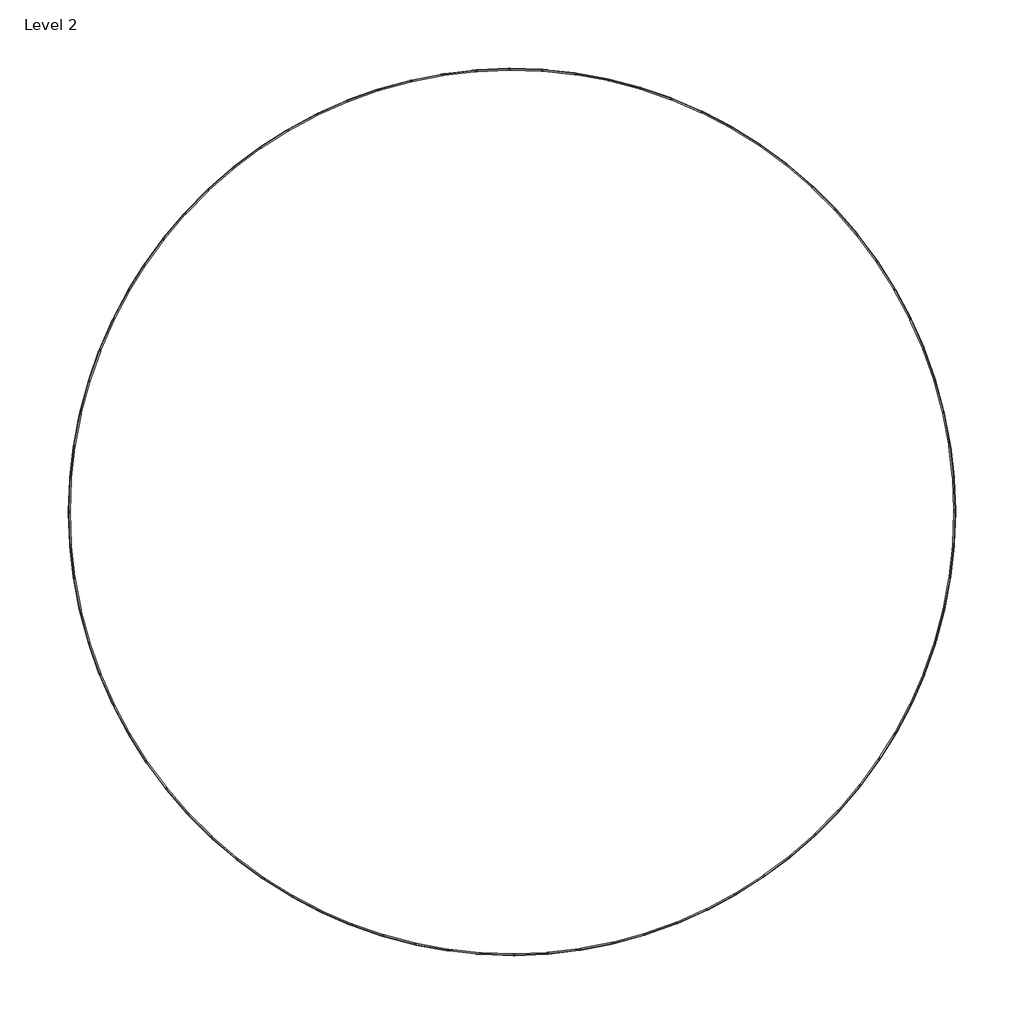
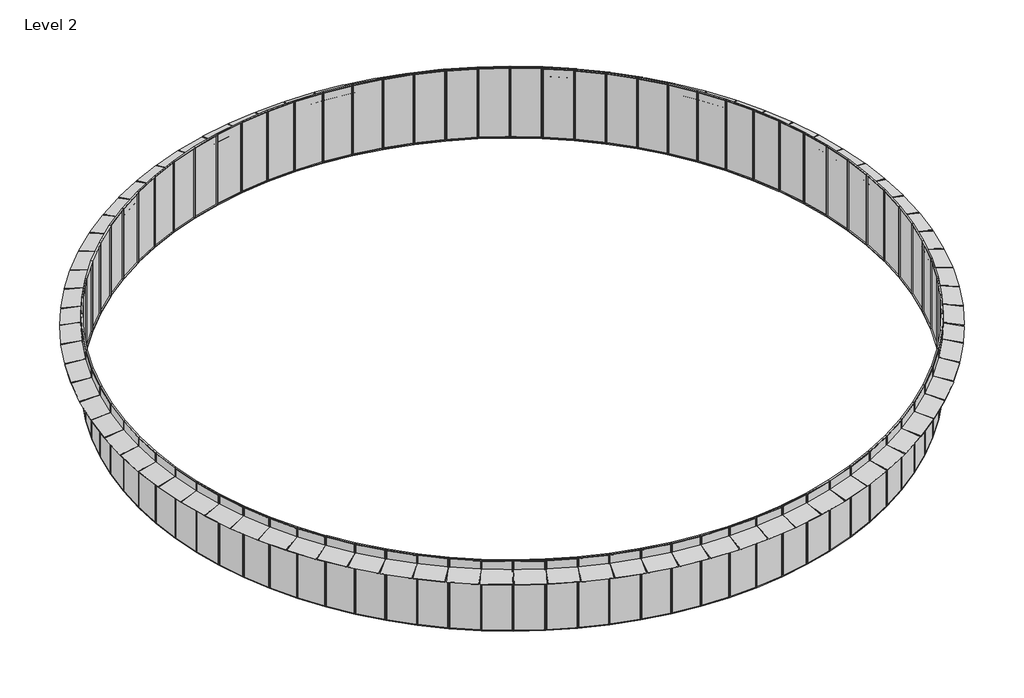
# One storey: 84 plates.
"""IFC4 building model written with IfcOpenShell, lengths in millimetres."""

from ifc_helpers import new_model, si_unit, origin, place, context, project, spatial, transform, mapped, element, save
from components import typical_panel_typical_panel_1d89b396, typical_panel_typical_panel_922f9ec0, typical_panel_typical_panel_46f82321

model = new_model("IFC4")

# Units and contexts
model_context = context("Model", 3, world=origin())
ifc_project = project(units=[si_unit("LENGTHUNIT", "METRE", prefix="MILLI")], contexts=[model_context])

# Site, building, storey
site = spatial("IfcSite", under=ifc_project)
building = spatial("IfcBuilding", under=site)
storey = spatial("IfcBuildingStorey", under=building, Name="Level 2", Elevation=4000.0)

# Plates
placement = place(None, origin())
typical_panel_typical_panel_shape = typical_panel_typical_panel_1d89b396(model_context)
element("IfcPlate", 1, ObjectType="Typical Panel : Typical Panel", at=placement, inside=storey, context=model_context, shape_type="MappedRepresentation", body=[
    mapped(typical_panel_typical_panel_shape, transform((17670.8873509, -9336.8752919, 4000.0), x_axis=(0.4671723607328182, 0.8841662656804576, 0.0), y_axis=(-0.8841662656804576, 0.4671723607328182, 0.0), z_axis=(0.0, 0.0, 1.0))),
])
element("IfcPlate", 2, ObjectType="Typical Panel : Typical Panel", at=placement, inside=storey, context=model_context, shape_type="MappedRepresentation", body=[
    mapped(typical_panel_typical_panel_shape, transform((-17656.816903, 9363.4564578, 4000.0), x_axis=(-0.468502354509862, -0.8834622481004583, 0.0), y_axis=(0.8834622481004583, -0.468502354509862, 0.0), z_axis=(0.0, 0.0, 1.0))),
])
typical_panel_typical_panel_2_shape = typical_panel_typical_panel_922f9ec0(model_context)
element("IfcPlate", 3, ObjectType="Typical Panel : Typical Panel", at=placement, inside=storey, context=model_context, shape_type="MappedRepresentation", body=[
    mapped(typical_panel_typical_panel_2_shape, transform((18320.961084, -7986.2309609, 4000.0), x_axis=(0.3995926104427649, 0.9166928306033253, 0.0), y_axis=(-0.9166928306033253, 0.3995926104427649, 0.0), z_axis=(0.0, 0.0, 1.0))),
])
element("IfcPlate", 4, ObjectType="Typical Panel : Typical Panel", at=placement, inside=storey, context=model_context, shape_type="MappedRepresentation", body=[
    mapped(typical_panel_typical_panel_2_shape, transform((18867.9794059, -6590.6640893, 4000.0), x_axis=(0.32976515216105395, 0.9440629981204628, 0.0), y_axis=(-0.9440629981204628, 0.32976515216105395, 0.0), z_axis=(0.0, 0.0, 1.0))),
])
element("IfcPlate", 5, ObjectType="Typical Panel : Typical Panel", at=placement, inside=storey, context=model_context, shape_type="MappedRepresentation", body=[
    mapped(typical_panel_typical_panel_2_shape, transform((19308.8653437, -5158.0247323, 4000.0), x_axis=(0.25808276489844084, 0.9661228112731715, 0.0), y_axis=(-0.9661228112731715, 0.25808276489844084, 0.0), z_axis=(0.0, 0.0, 1.0))),
])
element("IfcPlate", 6, ObjectType="Typical Panel : Typical Panel", at=placement, inside=storey, context=model_context, shape_type="MappedRepresentation", body=[
    mapped(typical_panel_typical_panel_2_shape, transform((19641.1389139, -3696.3714861, 4000.0), x_axis=(0.18494866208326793, 0.9827481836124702, 0.0), y_axis=(-0.9827481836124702, 0.18494866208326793, 0.0), z_axis=(0.0, 0.0, 1.0))),
])
element("IfcPlate", 7, ObjectType="Typical Panel : Typical Panel", at=placement, inside=storey, context=model_context, shape_type="MappedRepresentation", body=[
    mapped(typical_panel_typical_panel_2_shape, transform((19862.9310778, -2213.9261503, 4000.0), x_axis=(0.11077422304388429, 0.9938455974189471, 0.0), y_axis=(-0.9938455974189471, 0.11077422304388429, 0.0), z_axis=(0.0, 0.0, 1.0))),
])
element("IfcPlate", 8, ObjectType="Typical Panel : Typical Panel", at=placement, inside=storey, context=model_context, shape_type="MappedRepresentation", body=[
    mapped(typical_panel_typical_panel_2_shape, transform((19972.9942543, -719.02748, 4000.0), x_axis=(0.03597667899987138, 0.9993526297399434, 0.0), y_axis=(-0.9993526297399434, 0.03597667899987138, 0.0), z_axis=(0.0, 0.0, 1.0))),
])
element("IfcPlate", 9, ObjectType="Typical Panel : Typical Panel", at=placement, inside=storey, context=model_context, shape_type="MappedRepresentation", body=[
    mapped(typical_panel_typical_panel_2_shape, transform((19970.7093382, 779.91572, 4000.0), x_axis=(-0.03902323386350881, 0.9992383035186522, 0.0), y_axis=(-0.9992383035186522, -0.03902323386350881, 0.0), z_axis=(0.0, 0.0, 1.0))),
])
element("IfcPlate", 10, ObjectType="Typical Panel : Typical Panel", at=placement, inside=storey, context=model_context, shape_type="MappedRepresentation", body=[
    mapped(typical_panel_typical_panel_2_shape, transform((19856.089182, 2274.471894, 4000.0), x_axis=(-0.11380364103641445, 0.9935032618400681, 0.0), y_axis=(-0.9935032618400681, -0.11380364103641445, 0.0), z_axis=(0.0, 0.0, 1.0))),
])
element("IfcPlate", 11, ObjectType="Typical Panel : Typical Panel", at=placement, inside=storey, context=model_context, shape_type="MappedRepresentation", body=[
    mapped(typical_panel_typical_panel_2_shape, transform((19629.7785242, 3756.2341636, 4000.0), x_axis=(-0.1879439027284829, 0.9821797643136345, 0.0), y_axis=(-0.9821797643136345, -0.1879439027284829, 0.0), z_axis=(0.0, 0.0, 1.0))),
])
element("IfcPlate", 12, ObjectType="Typical Panel : Typical Panel", at=placement, inside=storey, context=model_context, shape_type="MappedRepresentation", body=[
    mapped(typical_panel_typical_panel_2_shape, transform((19293.0503622, 5216.8676161, 4000.0), x_axis=(-0.2610269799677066, 0.9653315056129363, 0.0), y_axis=(-0.9653315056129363, -0.2610269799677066, 0.0), z_axis=(0.0, 0.0, 1.0))),
])
element("IfcPlate", 13, ObjectType="Typical Panel : Typical Panel", at=placement, inside=storey, context=model_context, shape_type="MappedRepresentation", body=[
    mapped(typical_panel_typical_panel_2_shape, transform((18847.7987918, 6648.1561882, 4000.0), x_axis=(-0.3326417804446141, 0.9430532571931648, 0.0), y_axis=(-0.9430532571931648, -0.3326417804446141, 0.0), z_axis=(0.0, 0.0, 1.0))),
])
element("IfcPlate", 14, ObjectType="Typical Panel : Typical Panel", at=placement, inside=storey, context=model_context, shape_type="MappedRepresentation", body=[
    mapped(typical_panel_typical_panel_2_shape, transform((18296.5283533, 8042.0488817, 4000.0), x_axis=(-0.40238547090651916, 0.9154703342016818, 0.0), y_axis=(-0.9154703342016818, -0.40238547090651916, 0.0), z_axis=(0.0, 0.0, 1.0))),
])
element("IfcPlate", 15, ObjectType="Typical Panel : Typical Panel", at=placement, inside=storey, context=model_context, shape_type="MappedRepresentation", body=[
    mapped(typical_panel_typical_panel_2_shape, transform((17642.3399428, 9390.7050503, 4000.0), x_axis=(-0.46986574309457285, 0.8827378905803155, 0.0), y_axis=(-0.8827378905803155, -0.46986574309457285, 0.0), z_axis=(0.0, 0.0, 1.0))),
])
element("IfcPlate", 16, ObjectType="Typical Panel : Typical Panel", at=placement, inside=storey, context=model_context, shape_type="MappedRepresentation", body=[
    mapped(typical_panel_typical_panel_2_shape, transform((16888.9133701, 10686.538503, 4000.0), x_axis=(-0.5347030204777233, 0.8450400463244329, 0.0), y_axis=(-0.8450400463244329, -0.5347030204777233, 0.0), z_axis=(0.0, 0.0, 1.0))),
])
element("IfcPlate", 17, ObjectType="Typical Panel : Typical Panel", at=placement, inside=storey, context=model_context, shape_type="MappedRepresentation", body=[
    mapped(typical_panel_typical_panel_2_shape, transform((16040.4866598, 11922.2601766, 4000.0), x_axis=(-0.5965325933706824, 0.8025888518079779, 0.0), y_axis=(-0.8025888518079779, -0.5965325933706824, 0.0), z_axis=(0.0, 0.0, 1.0))),
])
element("IfcPlate", 18, ObjectType="Typical Panel : Typical Panel", at=placement, inside=storey, context=model_context, shape_type="MappedRepresentation", body=[
    mapped(typical_panel_typical_panel_2_shape, transform((15101.8322119, 13090.9191367, 4000.0), x_axis=(-0.6550066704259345, 0.7556230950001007, 0.0), y_axis=(-0.7556230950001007, -0.6550066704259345, 0.0), z_axis=(0.0, 0.0, 1.0))),
])
element("IfcPlate", 19, ObjectType="Typical Panel : Typical Panel", at=placement, inside=storey, context=model_context, shape_type="MappedRepresentation", body=[
    mapped(typical_panel_typical_panel_2_shape, transform((14078.2299579, 14185.9416766, 4000.0), x_axis=(-0.7097963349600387, 0.7044069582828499, 0.0), y_axis=(-0.7044069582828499, -0.7097963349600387, 0.0), z_axis=(0.0, 0.0, 1.0))),
])
element("IfcPlate", 20, ObjectType="Typical Panel : Typical Panel", at=placement, inside=storey, context=model_context, shape_type="MappedRepresentation", body=[
    mapped(typical_panel_typical_panel_2_shape, transform((12975.4376603, 15201.1682947, 4000.0), x_axis=(-0.7605933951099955, 0.6492285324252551, 0.0), y_axis=(-0.6492285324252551, -0.7605933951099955, 0.0), z_axis=(0.0, 0.0, 1.0))),
])
element("IfcPlate", 21, ObjectType="Typical Panel : Typical Panel", at=placement, inside=storey, context=model_context, shape_type="MappedRepresentation", body=[
    mapped(typical_panel_typical_panel_2_shape, transform((11799.6585259, 16130.8883411, 4000.0), x_axis=(-0.8071121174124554, 0.5903981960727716, 0.0), y_axis=(-0.5903981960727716, -0.8071121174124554, 0.0), z_axis=(0.0, 0.0, 1.0))),
])
element("IfcPlate", 22, ObjectType="Typical Panel : Typical Panel", at=placement, inside=storey, context=model_context, shape_type="MappedRepresentation", body=[
    mapped(typical_panel_typical_panel_2_shape, transform((10557.5063123, 16969.8721405, 4000.0), x_axis=(-0.8490908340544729, 0.5282468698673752, 0.0), y_axis=(-0.5282468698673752, -0.8490908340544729, 0.0), z_axis=(0.0, 0.0, 1.0))),
])
element("IfcPlate", 23, ObjectType="Typical Panel : Typical Panel", at=placement, inside=storey, context=model_context, shape_type="MappedRepresentation", body=[
    mapped(typical_panel_typical_panel_2_shape, transform((9255.9681257, 17713.4004092, 4000.0), x_axis=(-0.8862934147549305, 0.4631241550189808, 0.0), y_axis=(-0.4631241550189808, -0.8862934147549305, 0.0), z_axis=(0.0, 0.0, 1.0))),
])
element("IfcPlate", 24, ObjectType="Typical Panel : Typical Panel", at=placement, inside=storey, context=model_context, shape_type="MappedRepresentation", body=[
    mapped(typical_panel_typical_panel_2_shape, transform((7902.3651184, 18357.2908005, 4000.0), x_axis=(-0.9185105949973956, 0.3953963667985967, 0.0), y_axis=(-0.3953963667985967, -0.9185105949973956, 0.0), z_axis=(0.0, 0.0, 1.0))),
])
element("IfcPlate", 25, ObjectType="Typical Panel : Typical Panel", at=placement, inside=storey, context=model_context, shape_type="MappedRepresentation", body=[
    mapped(typical_panel_typical_panel_2_shape, transform((6504.3113073, 18897.9214311, 4000.0), x_axis=(-0.945561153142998, 0.3254444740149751, 0.0), y_axis=(-0.3254444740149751, -0.945561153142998, 0.0), z_axis=(0.0, 0.0, 1.0))),
])
element("IfcPlate", 26, ObjectType="Typical Panel : Typical Panel", at=placement, inside=storey, context=model_context, shape_type="MappedRepresentation", body=[
    mapped(typical_panel_typical_panel_2_shape, transform((5069.6707451, 19332.2512537, 4000.0), x_axis=(-0.9672929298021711, 0.25366195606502, 0.0), y_axis=(-0.25366195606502, -0.9672929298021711, 0.0), z_axis=(0.0, 0.0, 1.0))),
])
element("IfcPlate", 27, ObjectType="Typical Panel : Typical Panel", at=placement, inside=storey, context=model_context, shape_type="MappedRepresentation", body=[
    mapped(typical_panel_typical_panel_2_shape, transform((3606.5132849, 19657.837163, 4000.0), x_axis=(-0.9835836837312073, 0.18045258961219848, 0.0), y_axis=(-0.18045258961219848, -0.9835836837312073, 0.0), z_axis=(0.0, 0.0, 1.0))),
])
element("IfcPlate", 28, ObjectType="Typical Panel : Typical Panel", at=placement, inside=storey, context=model_context, shape_type="MappedRepresentation", body=[
    mapped(typical_panel_typical_panel_2_shape, transform((2123.0691876, 19872.8477382, 4000.0), x_axis=(-0.9943417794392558, 0.10622817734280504, 0.0), y_axis=(-0.10622817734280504, -0.9943417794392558, 0.0), z_axis=(0.0, 0.0, 1.0))),
])
element("IfcPlate", 29, ObjectType="Typical Panel : Typical Panel", at=placement, inside=storey, context=model_context, shape_type="MappedRepresentation", body=[
    mapped(typical_panel_typical_panel_2_shape, transform((627.682826, 19976.0735449, 4000.0), x_axis=(-0.9995067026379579, 0.03140623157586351, 0.0), y_axis=(-0.03140623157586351, -0.9995067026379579, 0.0), z_axis=(0.0, 0.0, 1.0))),
])
element("IfcPlate", 30, ObjectType="Typical Panel : Typical Panel", at=placement, inside=storey, context=model_context, shape_type="MappedRepresentation", body=[
    mapped(typical_panel_typical_panel_2_shape, transform((-871.2342514, 19966.9339379, 4000.0), x_axis=(-0.9990494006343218, -0.04359237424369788, 0.0), y_axis=(0.04359237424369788, -0.9990494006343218, 0.0), z_axis=(0.0, 0.0, 1.0))),
])
element("IfcPlate", 31, ObjectType="Typical Panel : Typical Panel", at=placement, inside=storey, context=model_context, shape_type="MappedRepresentation", body=[
    mapped(typical_panel_typical_panel_2_shape, transform((-2365.2506362, 19845.4803275, 4000.0), x_axis=(-0.9929724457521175, -0.11834577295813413, 0.0), y_axis=(0.11834577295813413, -0.9929724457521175, 0.0), z_axis=(0.0, 0.0, 1.0))),
])
element("IfcPlate", 32, ObjectType="Typical Panel : Typical Panel", at=placement, inside=storey, context=model_context, shape_type="MappedRepresentation", body=[
    mapped(typical_panel_typical_panel_2_shape, transform((-3845.9624862, 19612.3958902, 4000.0), x_axis=(-0.9813100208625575, -0.19243347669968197, 0.0), y_axis=(0.19243347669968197, -0.9813100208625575, 0.0), z_axis=(0.0, 0.0, 1.0))),
])
element("IfcPlate", 33, ObjectType="Typical Panel : Typical Panel", at=placement, inside=storey, context=model_context, shape_type="MappedRepresentation", body=[
    mapped(typical_panel_typical_panel_2_shape, transform((-5305.0407972, 19268.9917261, 4000.0), x_axis=(-0.9641277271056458, -0.2654387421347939, 0.0), y_axis=(0.2654387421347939, -0.9641277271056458, 0.0), z_axis=(0.0, 0.0, 1.0))),
])
element("IfcPlate", 34, ObjectType="Typical Panel : Typical Panel", at=placement, inside=storey, context=model_context, shape_type="MappedRepresentation", body=[
    mapped(typical_panel_typical_panel_2_shape, transform((-6734.2782537, 18817.1994835, 4000.0), x_axis=(-0.941522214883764, -0.33695091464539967, 0.0), y_axis=(0.33695091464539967, -0.941522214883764, 0.0), z_axis=(0.0, 0.0, 1.0))),
])
element("IfcPlate", 35, ObjectType="Typical Panel : Typical Panel", at=placement, inside=storey, context=model_context, shape_type="MappedRepresentation", body=[
    mapped(typical_panel_typical_panel_2_shape, transform((-8125.635395, 18259.5604938, 4000.0), x_axis=(-0.9136206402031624, -0.40656773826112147, 0.0), y_axis=(0.40656773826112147, -0.9136206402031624, 0.0), z_axis=(0.0, 0.0, 1.0))),
])
element("IfcPlate", 36, ObjectType="Typical Panel : Typical Panel", at=placement, inside=storey, context=model_context, shape_type="MappedRepresentation", body=[
    mapped(typical_panel_typical_panel_2_shape, transform((-9471.2858372, 17599.2114764, 4000.0), x_axis=(-0.8805799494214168, -0.4738976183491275, 0.0), y_axis=(0.4738976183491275, -0.8805799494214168, 0.0), z_axis=(0.0, 0.0, 1.0))),
])
element("IfcPlate", 37, ObjectType="Typical Panel : Typical Panel", at=placement, inside=storey, context=model_context, shape_type="MappedRepresentation", body=[
    mapped(typical_panel_typical_panel_2_shape, transform((-10763.6602966, 16839.8668944, 4000.0), x_axis=(-0.8425859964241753, -0.5385618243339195, 0.0), y_axis=(0.5385618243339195, -0.8425859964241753, 0.0), z_axis=(0.0, 0.0, 1.0))),
])
element("IfcPlate", 38, ObjectType="Typical Panel : Typical Panel", at=placement, inside=storey, context=model_context, shape_type="MappedRepresentation", body=[
    mapped(typical_panel_typical_panel_2_shape, transform((-11995.4891668, 15985.7980611, 4000.0), x_axis=(-0.7998524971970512, -0.6001966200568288, 0.0), y_axis=(0.6001966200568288, -0.7998524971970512, 0.0), z_axis=(0.0, 0.0, 1.0))),
])
element("IfcPlate", 39, ObjectType="Typical Panel : Typical Panel", at=placement, inside=storey, context=model_context, shape_type="MappedRepresentation", body=[
    mapped(typical_panel_typical_panel_2_shape, transform((-13159.8434105, 15041.8091137, 4000.0), x_axis=(-0.752619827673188, -0.6584553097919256, 0.0), y_axis=(0.6584553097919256, -0.752619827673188, 0.0), z_axis=(0.0, 0.0, 1.0))),
])
element("IfcPlate", 40, ObjectType="Typical Panel : Typical Panel", at=placement, inside=storey, context=model_context, shape_type="MappedRepresentation", body=[
    mapped(typical_panel_typical_panel_2_shape, transform((-14250.1735349, 14013.20999, 4000.0), x_axis=(-0.7011536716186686, -0.7130101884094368, 0.0), y_axis=(0.7130101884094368, -0.7011536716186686, 0.0), z_axis=(0.0, 0.0, 1.0))),
])
element("IfcPlate", 41, ObjectType="Typical Panel : Typical Panel", at=placement, inside=storey, context=model_context, shape_type="MappedRepresentation", body=[
    mapped(typical_panel_typical_panel_2_shape, transform((-15260.3464333, 12905.7865602, 4000.0), x_axis=(-0.6457435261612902, -0.7635543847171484, 0.0), y_axis=(0.7635543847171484, -0.6457435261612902, 0.0), z_axis=(0.0, 0.0, 1.0))),
])
element("IfcPlate", 42, ObjectType="Typical Panel : Typical Panel", at=placement, inside=storey, context=model_context, shape_type="MappedRepresentation", body=[
    mapped(typical_panel_typical_panel_2_shape, transform((-16184.6798829, 11725.7680809, 4000.0), x_axis=(-0.5867010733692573, -0.809803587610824, 0.0), y_axis=(0.809803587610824, -0.5867010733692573, 0.0), z_axis=(0.0, 0.0, 1.0))),
])
element("IfcPlate", 43, ObjectType="Typical Panel : Typical Panel", at=placement, inside=storey, context=model_context, shape_type="MappedRepresentation", body=[
    mapped(typical_panel_typical_panel_2_shape, transform((-18308.9223944, 8013.7919086, 4000.0), x_axis=(-0.4009716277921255, -0.9160904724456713, 0.0), y_axis=(0.9160904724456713, -0.4009716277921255, 0.0), z_axis=(0.0, 0.0, 1.0))),
])
element("IfcPlate", 44, ObjectType="Typical Panel : Typical Panel", at=placement, inside=storey, context=model_context, shape_type="MappedRepresentation", body=[
    mapped(typical_panel_typical_panel_2_shape, transform((-18858.0401924, 6619.0497885, 4000.0), x_axis=(-0.3311854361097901, -0.9435656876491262, 0.0), y_axis=(0.9435656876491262, -0.3311854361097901, 0.0), z_axis=(0.0, 0.0, 1.0))),
])
element("IfcPlate", 45, ObjectType="Typical Panel : Typical Panel", at=placement, inside=storey, context=model_context, shape_type="MappedRepresentation", body=[
    mapped(typical_panel_typical_panel_2_shape, transform((-19301.0815142, 5187.0755134, 4000.0), x_axis=(-0.2595363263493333, -0.9657333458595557, 0.0), y_axis=(0.9657333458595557, -0.2595363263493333, 0.0), z_axis=(0.0, 0.0, 1.0))),
])
element("IfcPlate", 46, ObjectType="Typical Panel : Typical Panel", at=placement, inside=storey, context=model_context, shape_type="MappedRepresentation", body=[
    mapped(typical_panel_typical_panel_2_shape, transform((-19635.5542525, 3725.9239385, 4000.0), x_axis=(-0.18642732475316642, -0.9824687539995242, 0.0), y_axis=(0.9824687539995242, -0.18642732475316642, 0.0), z_axis=(0.0, 0.0, 1.0))),
])
element("IfcPlate", 47, ObjectType="Typical Panel : Typical Panel", at=placement, inside=storey, context=model_context, shape_type="MappedRepresentation", body=[
    mapped(typical_panel_typical_panel_2_shape, transform((-19859.5769982, 2243.8140414, 4000.0), x_axis=(-0.11226966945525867, -0.993677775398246, 0.0), y_axis=(0.993677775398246, -0.11226966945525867, 0.0), z_axis=(0.0, 0.0, 1.0))),
])
element("IfcPlate", 48, ObjectType="Typical Panel : Typical Panel", at=placement, inside=storey, context=model_context, shape_type="MappedRepresentation", body=[
    mapped(typical_panel_typical_panel_2_shape, transform((-19971.8896232, 749.0826904, 4000.0), x_axis=(-0.037480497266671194, -0.9992973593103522, 0.0), y_axis=(0.9992973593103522, -0.037480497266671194, 0.0), z_axis=(0.0, 0.0, 1.0))),
])
element("IfcPlate", 49, ObjectType="Typical Panel : Typical Panel", at=placement, inside=storey, context=model_context, shape_type="MappedRepresentation", body=[
    mapped(typical_panel_typical_panel_2_shape, transform((-19971.8603692, -749.8622508, 4000.0), x_axis=(0.03751950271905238, -0.9992958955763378, 0.0), y_axis=(0.9992958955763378, 0.03751950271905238, 0.0), z_axis=(0.0, 0.0, 1.0))),
])
element("IfcPlate", 50, ObjectType="Typical Panel : Typical Panel", at=placement, inside=storey, context=model_context, shape_type="MappedRepresentation", body=[
    mapped(typical_panel_typical_panel_2_shape, transform((-19859.4894005, -2244.5892168, 4000.0), x_axis=(0.11230845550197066, -0.9936733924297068, 0.0), y_axis=(0.9936733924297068, 0.11230845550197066, 0.0), z_axis=(0.0, 0.0, 1.0))),
])
element("IfcPlate", 51, ObjectType="Typical Panel : Typical Panel", at=placement, inside=storey, context=model_context, shape_type="MappedRepresentation", body=[
    mapped(typical_panel_typical_panel_2_shape, transform((-19635.4088039, -3726.6903684, 4000.0), x_axis=(0.18646567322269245, -0.9824614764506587, 0.0), y_axis=(0.9824614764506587, 0.18646567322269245, 0.0), z_axis=(0.0, 0.0, 1.0))),
])
element("IfcPlate", 52, ObjectType="Typical Panel : Typical Panel", at=placement, inside=storey, context=model_context, shape_type="MappedRepresentation", body=[
    mapped(typical_panel_typical_panel_2_shape, transform((-19300.8790329, -5187.8288868, 4000.0), x_axis=(0.25957402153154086, -0.9657232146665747, 0.0), y_axis=(0.9657232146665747, 0.25957402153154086, 0.0), z_axis=(0.0, 0.0, 1.0))),
])
element("IfcPlate", 53, ObjectType="Typical Panel : Typical Panel", at=placement, inside=storey, context=model_context, shape_type="MappedRepresentation", body=[
    mapped(typical_panel_typical_panel_2_shape, transform((-18857.7818173, -6619.7858676, 4000.0), x_axis=(0.331222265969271, -0.9435527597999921, 0.0), y_axis=(0.9435527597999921, 0.331222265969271, 0.0), z_axis=(0.0, 0.0, 1.0))),
])
element("IfcPlate", 54, ObjectType="Typical Panel : Typical Panel", at=placement, inside=storey, context=model_context, shape_type="MappedRepresentation", body=[
    mapped(typical_panel_typical_panel_2_shape, transform((-18308.6095789, -8014.506553, 4000.0), x_axis=(0.40100738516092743, -0.916074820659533, 0.0), y_axis=(0.916074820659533, 0.40100738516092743, 0.0), z_axis=(0.0, 0.0, 1.0))),
])
element("IfcPlate", 55, ObjectType="Typical Panel : Typical Panel", at=placement, inside=storey, context=model_context, shape_type="MappedRepresentation", body=[
    mapped(typical_panel_typical_panel_2_shape, transform((-17656.4514117, -9364.1456389, 4000.0), x_axis=(0.4685368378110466, -0.8834439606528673, 0.0), y_axis=(0.8834439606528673, 0.4685368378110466, 0.0), z_axis=(0.0, 0.0, 1.0))),
])
element("IfcPlate", 56, ObjectType="Typical Panel : Typical Panel", at=placement, inside=storey, context=model_context, shape_type="MappedRepresentation", body=[
    mapped(typical_panel_typical_panel_2_shape, transform((-16904.9757053, -10661.1114057, 4000.0), x_axis=(0.5334307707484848, -0.8458437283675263, 0.0), y_axis=(0.8458437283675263, 0.5334307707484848, 0.0), z_axis=(0.0, 0.0, 1.0))),
])
element("IfcPlate", 57, ObjectType="Typical Panel : Typical Panel", at=placement, inside=storey, context=model_context, shape_type="MappedRepresentation", body=[
    mapped(typical_panel_typical_panel_2_shape, transform((-16058.4095105, -11898.1084208, 4000.0), x_axis=(0.5953241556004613, -0.8034856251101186, 0.0), y_axis=(0.8034856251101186, 0.5953241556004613, 0.0), z_axis=(0.0, 0.0, 1.0))),
])
element("IfcPlate", 58, ObjectType="Typical Panel : Typical Panel", at=placement, inside=storey, context=model_context, shape_type="MappedRepresentation", body=[
    mapped(typical_panel_typical_panel_2_shape, transform((-15121.5147622, -13068.178576, 4000.0), x_axis=(0.6538688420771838, -0.7566079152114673, 0.0), y_axis=(0.7566079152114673, 0.6538688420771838, 0.0), z_axis=(0.0, 0.0, 1.0))),
])
element("IfcPlate", 59, ObjectType="Typical Panel : Typical Panel", at=placement, inside=storey, context=model_context, shape_type="MappedRepresentation", body=[
    mapped(typical_panel_typical_panel_2_shape, transform((-14099.5614934, -14164.7402268, 4000.0), x_axis=(0.7087355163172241, -0.7054742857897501, 0.0), y_axis=(0.7054742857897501, 0.7087355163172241, 0.0), z_axis=(0.0, 0.0, 1.0))),
])
element("IfcPlate", 60, ObjectType="Typical Panel : Typical Panel", at=placement, inside=storey, context=model_context, shape_type="MappedRepresentation", body=[
    mapped(typical_panel_typical_panel_2_shape, transform((-12998.2981912, -15181.6252138, 4000.0), x_axis=(0.7596155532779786, -0.6503723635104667, 0.0), y_axis=(0.6503723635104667, 0.7596155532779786, 0.0), z_axis=(0.0, 0.0, 1.0))),
])
element("IfcPlate", 61, ObjectType="Typical Panel : Typical Panel", at=placement, inside=storey, context=model_context, shape_type="MappedRepresentation", body=[
    mapped(typical_panel_typical_panel_2_shape, transform((-11823.9194617, -16113.1135589, 4000.0), x_axis=(0.8062227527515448, -0.5916120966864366, 0.0), y_axis=(0.5916120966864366, 0.8062227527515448, 0.0), z_axis=(0.0, 0.0, 1.0))),
])
element("IfcPlate", 62, ObjectType="Typical Panel : Typical Panel", at=placement, inside=storey, context=model_context, shape_type="MappedRepresentation", body=[
    mapped(typical_panel_typical_panel_2_shape, transform((-10583.0311852, -16953.9656403, 4000.0), x_axis=(0.8482949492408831, -0.529524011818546, 0.0), y_axis=(0.529524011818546, 0.8482949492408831, 0.0), z_axis=(0.0, 0.0, 1.0))),
])
element("IfcPlate", 63, ObjectType="Typical Panel : Typical Panel", at=placement, inside=storey, context=model_context, shape_type="MappedRepresentation", body=[
    mapped(typical_panel_typical_panel_2_shape, transform((-9282.6133583, -17699.451665, 4000.0), x_axis=(0.8855954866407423, -0.4644573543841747, 0.0), y_axis=(0.4644573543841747, 0.8855954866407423, 0.0), z_axis=(0.0, 0.0, 1.0))),
])
element("IfcPlate", 64, ObjectType="Typical Panel : Typical Panel", at=placement, inside=storey, context=model_context, shape_type="MappedRepresentation", body=[
    mapped(typical_panel_typical_panel_2_shape, transform((-7929.9808313, -18345.378274, 4000.0), x_axis=(0.9179145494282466, -0.39677812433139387, 0.0), y_axis=(0.39677812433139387, 0.9179145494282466, 0.0), z_axis=(0.0, 0.0, 1.0))),
])
element("IfcPlate", 65, ObjectType="Typical Panel : Typical Panel", at=placement, inside=storey, context=model_context, shape_type="MappedRepresentation", body=[
    mapped(typical_panel_typical_panel_2_shape, transform((-6532.742162, -18888.1121302, 4000.0), x_axis=(0.9450703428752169, -0.3268670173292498, 0.0), y_axis=(0.3268670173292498, 0.9450703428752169, 0.0), z_axis=(0.0, 0.0, 1.0))),
])
element("IfcPlate", 66, ObjectType="Typical Panel : Typical Panel", at=placement, inside=storey, context=model_context, shape_type="MappedRepresentation", body=[
    mapped(typical_panel_typical_panel_2_shape, transform((-5098.7568181, -19324.6003557, 4000.0), x_axis=(0.9669101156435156, -0.25511728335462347, 0.0), y_axis=(0.25511728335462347, 0.9669101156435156, 0.0), z_axis=(0.0, 0.0, 1.0))),
])
element("IfcPlate", 67, ObjectType="Typical Panel : Typical Panel", at=placement, inside=storey, context=model_context, shape_type="MappedRepresentation", body=[
    mapped(typical_panel_typical_panel_2_shape, transform((-3636.0909672, -19652.3877043, 4000.0), x_axis=(0.983311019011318, -0.18193251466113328, 0.0), y_axis=(0.18193251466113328, 0.983311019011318, 0.0), z_axis=(0.0, 0.0, 1.0))),
])
element("IfcPlate", 68, ObjectType="Typical Panel : Typical Panel", at=placement, inside=storey, context=model_context, shape_type="MappedRepresentation", body=[
    mapped(typical_panel_typical_panel_2_shape, transform((-2152.9721045, -19869.6303719, 4000.0), x_axis=(0.9941807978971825, -0.10772437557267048, 0.0), y_axis=(0.10772437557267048, 0.9941807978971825, 0.0), z_axis=(0.0, 0.0, 1.0))),
])
element("IfcPlate", 69, ObjectType="Typical Panel : Typical Panel", at=placement, inside=storey, context=model_context, shape_type="MappedRepresentation", body=[
    mapped(typical_panel_typical_panel_2_shape, transform((-657.7427737, -19975.1063688, 4000.0), x_axis=(0.9994583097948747, -0.032910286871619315, 0.0), y_axis=(0.032910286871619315, 0.9994583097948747, 0.0), z_axis=(0.0, 0.0, 1.0))),
])
element("IfcPlate", 70, ObjectType="Typical Panel : Typical Panel", at=placement, inside=storey, context=model_context, shape_type="MappedRepresentation", body=[
    mapped(typical_panel_typical_panel_2_shape, transform((841.1863602, -19968.2223923, 4000.0), x_axis=(0.9991138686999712, 0.042088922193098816, 0.0), y_axis=(-0.042088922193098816, 0.9991138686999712, 0.0), z_axis=(0.0, 0.0, 1.0))),
])
element("IfcPlate", 71, ObjectType="Typical Panel : Typical Panel", at=placement, inside=storey, context=model_context, shape_type="MappedRepresentation", body=[
    mapped(typical_panel_typical_panel_2_shape, transform((2335.3838208, -19849.0171648, 4000.0), x_axis=(0.9931494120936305, 0.11685138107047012, 0.0), y_axis=(-0.11685138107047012, 0.9931494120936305, 0.0), z_axis=(0.0, 0.0, 1.0))),
])
element("IfcPlate", 72, ObjectType="Typical Panel : Typical Panel", at=placement, inside=storey, context=model_context, shape_type="MappedRepresentation", body=[
    mapped(typical_panel_typical_panel_2_shape, transform((3816.4447474, -19618.1612158, 4000.0), x_axis=(0.9815984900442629, 0.19095655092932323, 0.0), y_axis=(-0.19095655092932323, 0.9815984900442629, 0.0), z_axis=(0.0, 0.0, 1.0))),
])
element("IfcPlate", 73, ObjectType="Typical Panel : Typical Panel", at=placement, inside=storey, context=model_context, shape_type="MappedRepresentation", body=[
    mapped(typical_panel_typical_panel_2_shape, transform((5276.0381723, -19276.95311, 4000.0), x_axis=(0.9645260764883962, 0.26398759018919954, 0.0), y_axis=(-0.26398759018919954, 0.9645260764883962, 0.0), z_axis=(0.0, 0.0, 1.0))),
])
element("IfcPlate", 74, ObjectType="Typical Panel : Typical Panel", at=placement, inside=storey, context=model_context, shape_type="MappedRepresentation", body=[
    mapped(typical_panel_typical_panel_2_shape, transform((6705.9538824, -18827.3121429, 4000.0), x_axis=(0.9420282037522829, 0.3355336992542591, 0.0), y_axis=(-0.3355336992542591, 0.9420282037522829, 0.0), z_axis=(0.0, 0.0, 1.0))),
])
element("IfcPlate", 75, ObjectType="Typical Panel : Typical Panel", at=placement, inside=storey, context=model_context, shape_type="MappedRepresentation", body=[
    mapped(typical_panel_typical_panel_2_shape, transform((8098.148602, -18271.767545, 4000.0), x_axis=(0.9142314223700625, 0.4051924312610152, 0.0), y_axis=(-0.4051924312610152, 0.9142314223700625, 0.0), z_axis=(0.0, 0.0, 1.0))),
])
element("IfcPlate", 76, ObjectType="Typical Panel : Typical Panel", at=placement, inside=storey, context=model_context, shape_type="MappedRepresentation", body=[
    mapped(typical_panel_typical_panel_2_shape, transform((9444.7912357, -17613.4442547, 4000.0), x_axis=(0.8812920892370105, 0.47257195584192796, 0.0), y_axis=(-0.47257195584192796, 0.8812920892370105, 0.0), z_axis=(0.0, 0.0, 1.0))),
])
element("IfcPlate", 77, ObjectType="Typical Panel : Typical Panel", at=placement, inside=storey, context=model_context, shape_type="MappedRepresentation", body=[
    mapped(typical_panel_typical_panel_2_shape, transform((10738.3069187, -16856.0453404, 4000.0), x_axis=(0.8433954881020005, 0.5372932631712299, 0.0), y_axis=(-0.5372932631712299, 0.8433954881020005, 0.0), z_axis=(0.0, 0.0, 1.0))),
])
element("IfcPlate", 78, ObjectType="Typical Panel : Typical Panel", at=placement, inside=storey, context=model_context, shape_type="MappedRepresentation", body=[
    mapped(typical_panel_typical_panel_2_shape, transform((11971.4196253, -16003.8311711, 4000.0), x_axis=(0.8007547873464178, 0.5989922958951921, 0.0), y_axis=(-0.5989922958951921, 0.8007547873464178, 0.0), z_axis=(0.0, 0.0, 1.0))),
])
element("IfcPlate", 79, ObjectType="Typical Panel : Typical Panel", at=placement, inside=storey, context=model_context, shape_type="MappedRepresentation", body=[
    mapped(typical_panel_typical_panel_2_shape, transform((13137.1930965, -15061.5954515, 4000.0), x_axis=(0.7536098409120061, 0.6573219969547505, 0.0), y_axis=(-0.6573219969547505, 0.7536098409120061, 0.0), z_axis=(0.0, 0.0, 1.0))),
])
element("IfcPlate", 80, ObjectType="Typical Panel : Typical Panel", at=placement, inside=storey, context=model_context, shape_type="MappedRepresentation", body=[
    mapped(typical_panel_typical_panel_2_shape, transform((14229.0698566, -14034.6382574, 4000.0), x_axis=(0.7022258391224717, 0.7119542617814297, 0.0), y_axis=(-0.7119542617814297, 0.7022258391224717, 0.0), z_axis=(0.0, 0.0, 1.0))),
])
element("IfcPlate", 81, ObjectType="Typical Panel : Typical Panel", at=placement, inside=storey, context=model_context, shape_type="MappedRepresentation", body=[
    mapped(typical_panel_typical_panel_2_shape, transform((15240.9080986, -12928.7362232, 4000.0), x_axis=(0.6468918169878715, 0.7625817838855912, 0.0), y_axis=(-0.7625817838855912, 0.6468918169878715, 0.0), z_axis=(0.0, 0.0, 1.0))),
])
element("IfcPlate", 82, ObjectType="Typical Panel : Typical Panel", at=placement, inside=storey, context=model_context, shape_type="MappedRepresentation", body=[
    mapped(typical_panel_typical_panel_2_shape, transform((16167.0162327, -11750.1100477, 4000.0), x_axis=(0.5879190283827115, 0.8089197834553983, 0.0), y_axis=(-0.8089197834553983, 0.5879190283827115, 0.0), z_axis=(0.0, 0.0, 1.0))),
])
typical_panel_typical_panel_3_shape = typical_panel_typical_panel_46f82321(model_context)
element("IfcPlate", 83, ObjectType="Typical Panel : Typical Panel", at=placement, inside=storey, context=model_context, shape_type="MappedRepresentation", body=[
    mapped(typical_panel_typical_panel_3_shape, transform((-16972.6068818, 10559.2076951, 4000.0), x_axis=(-0.5282468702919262, -0.849090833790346, 0.0), y_axis=(0.849090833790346, -0.5282468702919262, 0.0), z_axis=(0.0, 0.0, 1.0))),
])
element("IfcPlate", 84, ObjectType="Typical Panel : Typical Panel", at=placement, inside=storey, context=model_context, shape_type="MappedRepresentation", body=[
    mapped(typical_panel_typical_panel_3_shape, transform((16956.6978182, -10584.7366814, 4000.0), x_axis=(0.5295240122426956, 0.8482949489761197, 0.0), y_axis=(-0.8482949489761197, 0.5295240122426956, 0.0), z_axis=(0.0, 0.0, 1.0))),
])

save(model, "model.ifc")
